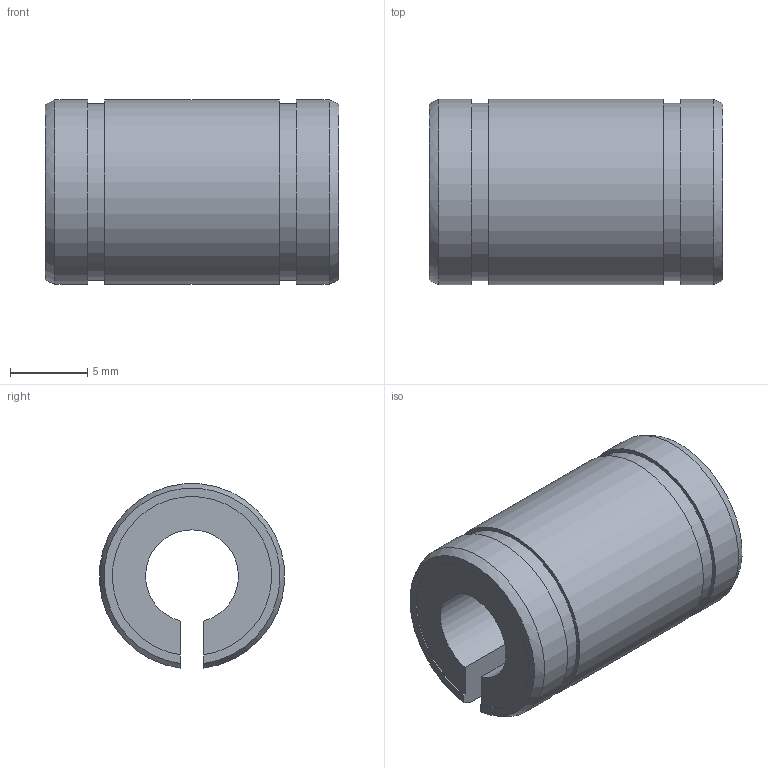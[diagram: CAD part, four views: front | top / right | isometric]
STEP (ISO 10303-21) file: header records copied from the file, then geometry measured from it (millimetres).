
FILE_DESCRIPTION((''),'2;1');
FILE_NAME('D:\製品 (図面)\カタログ用3D\リニアベアリング関連\STEP形式\LE-ADJ\LE6-ADJ.stp','2010-06-03T09:06:45',('Tsuchiya'),(''),'Autodesk Inventor 10','Autodesk Inventor 10','');
FILE_SCHEMA(('AUTOMOTIVE_DESIGN { 1 0 10303 214 1 1 1 1 }'));
Length unit declared in the file: millimetre
Products named in the file (1): LE6-ADJ
Bounding box: 19 x 11.97 x 11.93 mm (x, y, z)
Volume: 1489.6 mm3; surface area: 1308.4 mm2
Topology: 1 solids, 1 shells, 20 faces, 54 edges, 36 vertices
Faces by surface type: plane 10, cylinder 8, bspline 2
Entity records: 719 total; most frequent: CARTESIAN_POINT 187, ORIENTED_EDGE 108, DIRECTION 106, EDGE_CURVE 54, AXIS2_PLACEMENT_3D 37, VERTEX_POINT 36, VECTOR 32, LINE 32
